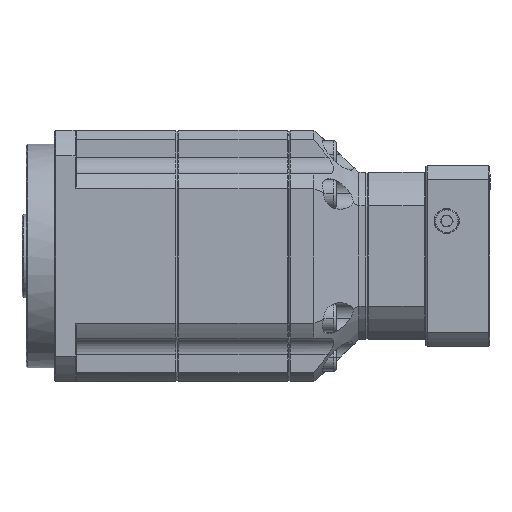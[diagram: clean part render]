
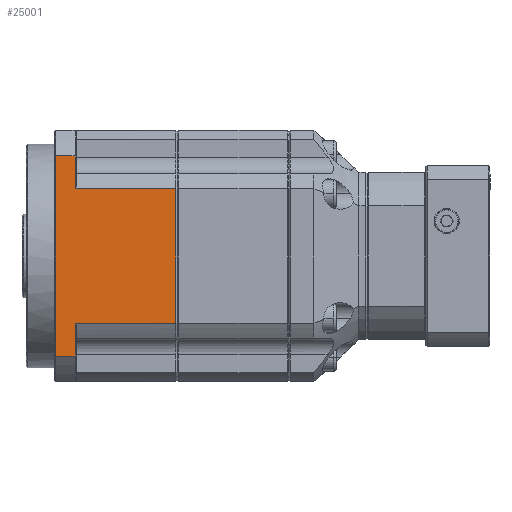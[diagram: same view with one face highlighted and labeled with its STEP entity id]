
A CAD part, front view. The second image highlights one B-rep face of the part: STEP entity #25001.
In plain terms, the highlighted planar face has unit normal (0, -1, 0).
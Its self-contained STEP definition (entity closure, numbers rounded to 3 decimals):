
#692 = CARTESIAN_POINT ( 'NONE',  ( 32., -45., 35.795 ) ) ;
#1249 = FACE_OUTER_BOUND ( 'NONE', #79562, .T. ) ;
#1760 = DIRECTION ( 'NONE',  ( 0., 0., -1. ) ) ;
#2720 = EDGE_CURVE ( 'NONE', #88115, #63191, #12885, .T. ) ;
#5716 = VERTEX_POINT ( 'NONE', #28251 ) ;
#6188 = LINE ( 'NONE', #6885, #55184 ) ;
#6885 = CARTESIAN_POINT ( 'NONE',  ( 17.5, -45., 0. ) ) ;
#8233 = CARTESIAN_POINT ( 'NONE',  ( 10.5, -45., 35.795 ) ) ;
#11610 = LINE ( 'NONE', #692, #65092 ) ;
#12885 = LINE ( 'NONE', #26594, #30038 ) ;
#13920 = DIRECTION ( 'NONE',  ( 0., 0., -1. ) ) ;
#15029 = DIRECTION ( 'NONE',  ( -1., 0., 0. ) ) ;
#20584 = CARTESIAN_POINT ( 'NONE',  ( 10.5, -45., 35.795 ) ) ;
#22981 = LINE ( 'NONE', #71311, #58199 ) ;
#23441 = VECTOR ( 'NONE', #73005, 1000. ) ;
#23602 = CARTESIAN_POINT ( 'NONE',  ( 17.5, -45., 35.795 ) ) ;
#24198 = AXIS2_PLACEMENT_3D ( 'NONE', #20584, #35326, #13920 ) ;
#25001 = ADVANCED_FACE ( 'NONE', ( #1249 ), #43539, .T. ) ;
#26594 = CARTESIAN_POINT ( 'NONE',  ( 10.5, -45., 0. ) ) ;
#26683 = LINE ( 'NONE', #30068, #79051 ) ;
#28078 = ORIENTED_EDGE ( 'NONE', *, *, #2720, .T. ) ;
#28251 = CARTESIAN_POINT ( 'NONE',  ( 53.5, -45., 24. ) ) ;
#30038 = VECTOR ( 'NONE', #34266, 1000. ) ;
#30068 = CARTESIAN_POINT ( 'NONE',  ( 32., -45., -35.795 ) ) ;
#30610 = EDGE_CURVE ( 'NONE', #54626, #37869, #22981, .T. ) ;
#31128 = CARTESIAN_POINT ( 'NONE',  ( 53.5, -45., 0. ) ) ;
#31434 = LINE ( 'NONE', #72364, #23441 ) ;
#33359 = EDGE_CURVE ( 'NONE', #5716, #54626, #65850, .T. ) ;
#33668 = LINE ( 'NONE', #67794, #88199 ) ;
#34266 = DIRECTION ( 'NONE',  ( 0., 0., -1. ) ) ;
#35326 = DIRECTION ( 'NONE',  ( 0., -1., 0. ) ) ;
#37869 = VERTEX_POINT ( 'NONE', #76599 ) ;
#41570 = ORIENTED_EDGE ( 'NONE', *, *, #71881, .T. ) ;
#41876 = CARTESIAN_POINT ( 'NONE',  ( 17.5, -45., 24. ) ) ;
#43539 = PLANE ( 'NONE',  #24198 ) ;
#46273 = CARTESIAN_POINT ( 'NONE',  ( 10.5, -45., -35.795 ) ) ;
#48342 = EDGE_CURVE ( 'NONE', #58844, #37869, #6188, .T. ) ;
#50479 = ORIENTED_EDGE ( 'NONE', *, *, #60316, .T. ) ;
#50989 = EDGE_CURVE ( 'NONE', #5716, #69568, #31434, .T. ) ;
#54548 = VERTEX_POINT ( 'NONE', #23602 ) ;
#54626 = VERTEX_POINT ( 'NONE', #85579 ) ;
#55184 = VECTOR ( 'NONE', #79463, 1000. ) ;
#57280 = ORIENTED_EDGE ( 'NONE', *, *, #30610, .F. ) ;
#58199 = VECTOR ( 'NONE', #92969, 1000. ) ;
#58844 = VERTEX_POINT ( 'NONE', #62560 ) ;
#60316 = EDGE_CURVE ( 'NONE', #54548, #88115, #11610, .T. ) ;
#62560 = CARTESIAN_POINT ( 'NONE',  ( 17.5, -45., -35.795 ) ) ;
#63191 = VERTEX_POINT ( 'NONE', #46273 ) ;
#65092 = VECTOR ( 'NONE', #15029, 1000. ) ;
#65850 = LINE ( 'NONE', #31128, #69335 ) ;
#67169 = DIRECTION ( 'NONE',  ( 0., 0., 1. ) ) ;
#67632 = ORIENTED_EDGE ( 'NONE', *, *, #86229, .T. ) ;
#67794 = CARTESIAN_POINT ( 'NONE',  ( 17.5, -45., 0. ) ) ;
#69335 = VECTOR ( 'NONE', #1760, 1000. ) ;
#69568 = VERTEX_POINT ( 'NONE', #41876 ) ;
#71311 = CARTESIAN_POINT ( 'NONE',  ( 35.392, -45., -24. ) ) ;
#71881 = EDGE_CURVE ( 'NONE', #63191, #58844, #26683, .T. ) ;
#72364 = CARTESIAN_POINT ( 'NONE',  ( 32., -45., 24. ) ) ;
#73005 = DIRECTION ( 'NONE',  ( -1., 0., 0. ) ) ;
#76093 = ORIENTED_EDGE ( 'NONE', *, *, #33359, .F. ) ;
#76318 = ORIENTED_EDGE ( 'NONE', *, *, #50989, .T. ) ;
#76599 = CARTESIAN_POINT ( 'NONE',  ( 17.5, -45., -24. ) ) ;
#79051 = VECTOR ( 'NONE', #87595, 1000. ) ;
#79463 = DIRECTION ( 'NONE',  ( 0., 0., 1. ) ) ;
#79562 = EDGE_LOOP ( 'NONE', ( #67632, #50479, #28078, #41570, #92577, #57280, #76093, #76318 ) ) ;
#85579 = CARTESIAN_POINT ( 'NONE',  ( 53.5, -45., -24. ) ) ;
#86229 = EDGE_CURVE ( 'NONE', #69568, #54548, #33668, .T. ) ;
#87595 = DIRECTION ( 'NONE',  ( 1., 0., 0. ) ) ;
#88115 = VERTEX_POINT ( 'NONE', #8233 ) ;
#88199 = VECTOR ( 'NONE', #67169, 1000. ) ;
#92577 = ORIENTED_EDGE ( 'NONE', *, *, #48342, .T. ) ;
#92969 = DIRECTION ( 'NONE',  ( -1., 0., 0. ) ) ;
